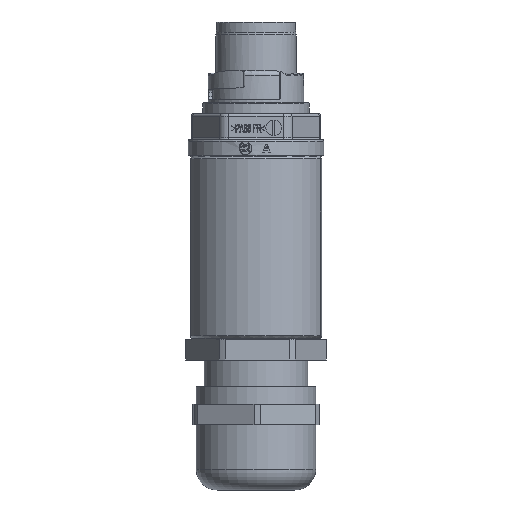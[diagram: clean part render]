
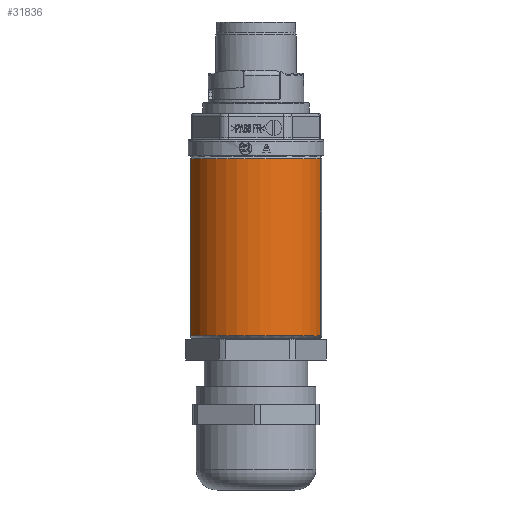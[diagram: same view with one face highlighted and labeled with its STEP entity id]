
A CAD part, front view. The second image highlights one B-rep face of the part: STEP entity #31836.
In plain terms, the highlighted cylindrical face has radius 13 mm (diameter 26 mm), a partial arc.
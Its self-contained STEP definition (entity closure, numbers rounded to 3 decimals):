
#1547 = ORIENTED_EDGE ( 'NONE', *, *, #33310, .T. ) ;
#2527 = DIRECTION ( 'NONE',  ( 1., -0.03, 0. ) ) ;
#5476 = CARTESIAN_POINT ( 'NONE',  ( 0., 0., 35.049 ) ) ;
#6851 = CARTESIAN_POINT ( 'NONE',  ( -12.603, -3.188, 42.208 ) ) ;
#7350 = EDGE_CURVE ( 'NONE', #12054, #32504, #13628, .T. ) ;
#9117 = CARTESIAN_POINT ( 'NONE',  ( 0., 0., 34.549 ) ) ;
#9524 = DIRECTION ( 'NONE',  ( 0., 0., -1. ) ) ;
#10403 = DIRECTION ( 'NONE',  ( 1., -0.03, 0. ) ) ;
#10529 = DIRECTION ( 'NONE',  ( 0., 0., -1. ) ) ;
#11459 = DIRECTION ( 'NONE',  ( -1., 0.03, 0. ) ) ;
#11856 = FACE_OUTER_BOUND ( 'NONE', #39214, .T. ) ;
#12054 = VERTEX_POINT ( 'NONE', #23217 ) ;
#12930 = VECTOR ( 'NONE', #9524, 1000. ) ;
#13628 = LINE ( 'NONE', #38769, #25152 ) ;
#16383 = DIRECTION ( 'NONE',  ( 0., 0., 1. ) ) ;
#20511 = ORIENTED_EDGE ( 'NONE', *, *, #7350, .F. ) ;
#20838 = VERTEX_POINT ( 'NONE', #40468 ) ;
#21023 = CARTESIAN_POINT ( 'NONE',  ( 12.385, -3.95, 0.549 ) ) ;
#21115 = DIRECTION ( 'NONE',  ( 0., 0., -1. ) ) ;
#21677 = DIRECTION ( 'NONE',  ( 0., 0., -1. ) ) ;
#22489 = LINE ( 'NONE', #6851, #12930 ) ;
#22557 = CARTESIAN_POINT ( 'NONE',  ( 0., 0., 0.549 ) ) ;
#22929 = AXIS2_PLACEMENT_3D ( 'NONE', #9117, #21677, #2527 ) ;
#23217 = CARTESIAN_POINT ( 'NONE',  ( 12.385, -3.95, 34.549 ) ) ;
#23755 = VERTEX_POINT ( 'NONE', #36679 ) ;
#25152 = VECTOR ( 'NONE', #10529, 1000. ) ;
#29152 = ORIENTED_EDGE ( 'NONE', *, *, #38396, .T. ) ;
#30460 = CIRCLE ( 'NONE', #37052, 13. ) ;
#30627 = CYLINDRICAL_SURFACE ( 'NONE', #37879, 13. ) ;
#31836 = ADVANCED_FACE ( 'NONE', ( #11856 ), #30627, .T. ) ;
#32504 = VERTEX_POINT ( 'NONE', #21023 ) ;
#33310 = EDGE_CURVE ( 'NONE', #23755, #32504, #30460, .T. ) ;
#33445 = EDGE_CURVE ( 'NONE', #20838, #23755, #22489, .T. ) ;
#33480 = CIRCLE ( 'NONE', #22929, 13. ) ;
#35250 = ORIENTED_EDGE ( 'NONE', *, *, #33445, .T. ) ;
#36679 = CARTESIAN_POINT ( 'NONE',  ( -12.603, -3.188, 0.549 ) ) ;
#37052 = AXIS2_PLACEMENT_3D ( 'NONE', #22557, #16383, #10403 ) ;
#37879 = AXIS2_PLACEMENT_3D ( 'NONE', #5476, #21115, #11459 ) ;
#38396 = EDGE_CURVE ( 'NONE', #12054, #20838, #33480, .T. ) ;
#38769 = CARTESIAN_POINT ( 'NONE',  ( 12.385, -3.95, 42.208 ) ) ;
#39214 = EDGE_LOOP ( 'NONE', ( #20511, #29152, #35250, #1547 ) ) ;
#40468 = CARTESIAN_POINT ( 'NONE',  ( -12.603, -3.188, 34.549 ) ) ;
